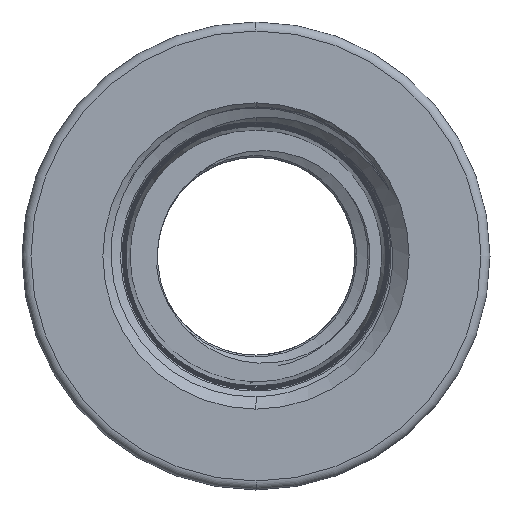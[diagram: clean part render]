
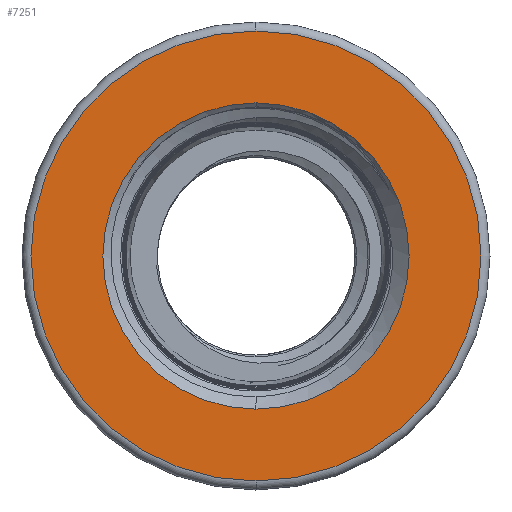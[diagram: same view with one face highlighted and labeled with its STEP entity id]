
A CAD part, left-side view. The second image highlights one B-rep face of the part: STEP entity #7251.
In plain terms, the highlighted planar face has unit normal (-1, 0, 0).
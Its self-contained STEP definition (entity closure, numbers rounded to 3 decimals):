
#85 = VERTEX_POINT ( 'NONE', #12318 ) ;
#159 = CIRCLE ( 'NONE', #9305, 12.5 ) ;
#694 = ORIENTED_EDGE ( 'NONE', *, *, #9053, .T. ) ;
#2286 = EDGE_CURVE ( 'NONE', #9596, #4309, #7058, .T. ) ;
#2343 = CARTESIAN_POINT ( 'NONE',  ( 0., 0., -12.5 ) ) ;
#3096 = CARTESIAN_POINT ( 'NONE',  ( 0., 0., 0. ) ) ;
#3161 = CARTESIAN_POINT ( 'NONE',  ( 0., 0., 8.508 ) ) ;
#3530 = DIRECTION ( 'NONE',  ( 1., 0., 0. ) ) ;
#3597 = CARTESIAN_POINT ( 'NONE',  ( 0., 0., 0. ) ) ;
#3648 = DIRECTION ( 'NONE',  ( -1., 0., 0. ) ) ;
#4061 = ORIENTED_EDGE ( 'NONE', *, *, #10902, .T. ) ;
#4110 = CARTESIAN_POINT ( 'NONE',  ( 0., 0., 0. ) ) ;
#4309 = VERTEX_POINT ( 'NONE', #6987 ) ;
#4798 = CARTESIAN_POINT ( 'NONE',  ( 0., 0., 0. ) ) ;
#5332 = AXIS2_PLACEMENT_3D ( 'NONE', #4798, #7721, #6712 ) ;
#5479 = AXIS2_PLACEMENT_3D ( 'NONE', #3597, #3530, #11709 ) ;
#5610 = ORIENTED_EDGE ( 'NONE', *, *, #9682, .T. ) ;
#5625 = CARTESIAN_POINT ( 'NONE',  ( 0., 0., 0. ) ) ;
#5918 = CIRCLE ( 'NONE', #5479, 8.508 ) ;
#6712 = DIRECTION ( 'NONE',  ( 0., 0., -1. ) ) ;
#6987 = CARTESIAN_POINT ( 'NONE',  ( 0., 0., -8.508 ) ) ;
#7015 = FACE_BOUND ( 'NONE', #7421, .T. ) ;
#7058 = CIRCLE ( 'NONE', #5332, 8.508 ) ;
#7141 = DIRECTION ( 'NONE',  ( 1., 0., 0. ) ) ;
#7176 = AXIS2_PLACEMENT_3D ( 'NONE', #5625, #3648, #7629 ) ;
#7251 = ADVANCED_FACE ( 'NONE', ( #9927, #7015 ), #10185, .F. ) ;
#7421 = EDGE_LOOP ( 'NONE', ( #7687, #694 ) ) ;
#7629 = DIRECTION ( 'NONE',  ( 0., 0., -1. ) ) ;
#7687 = ORIENTED_EDGE ( 'NONE', *, *, #2286, .T. ) ;
#7721 = DIRECTION ( 'NONE',  ( 1., 0., 0. ) ) ;
#8012 = DIRECTION ( 'NONE',  ( 0., 0., -1. ) ) ;
#9016 = EDGE_LOOP ( 'NONE', ( #5610, #4061 ) ) ;
#9053 = EDGE_CURVE ( 'NONE', #4309, #9596, #5918, .T. ) ;
#9305 = AXIS2_PLACEMENT_3D ( 'NONE', #4110, #12425, #12489 ) ;
#9596 = VERTEX_POINT ( 'NONE', #3161 ) ;
#9682 = EDGE_CURVE ( 'NONE', #11269, #85, #159, .T. ) ;
#9927 = FACE_OUTER_BOUND ( 'NONE', #9016, .T. ) ;
#10185 = PLANE ( 'NONE',  #12294 ) ;
#10902 = EDGE_CURVE ( 'NONE', #85, #11269, #12502, .T. ) ;
#11269 = VERTEX_POINT ( 'NONE', #2343 ) ;
#11709 = DIRECTION ( 'NONE',  ( 0., 0., -1. ) ) ;
#12294 = AXIS2_PLACEMENT_3D ( 'NONE', #3096, #7141, #8012 ) ;
#12318 = CARTESIAN_POINT ( 'NONE',  ( 0., 0., 12.5 ) ) ;
#12425 = DIRECTION ( 'NONE',  ( -1., 0., 0. ) ) ;
#12489 = DIRECTION ( 'NONE',  ( 0., 0., -1. ) ) ;
#12502 = CIRCLE ( 'NONE', #7176, 12.5 ) ;
